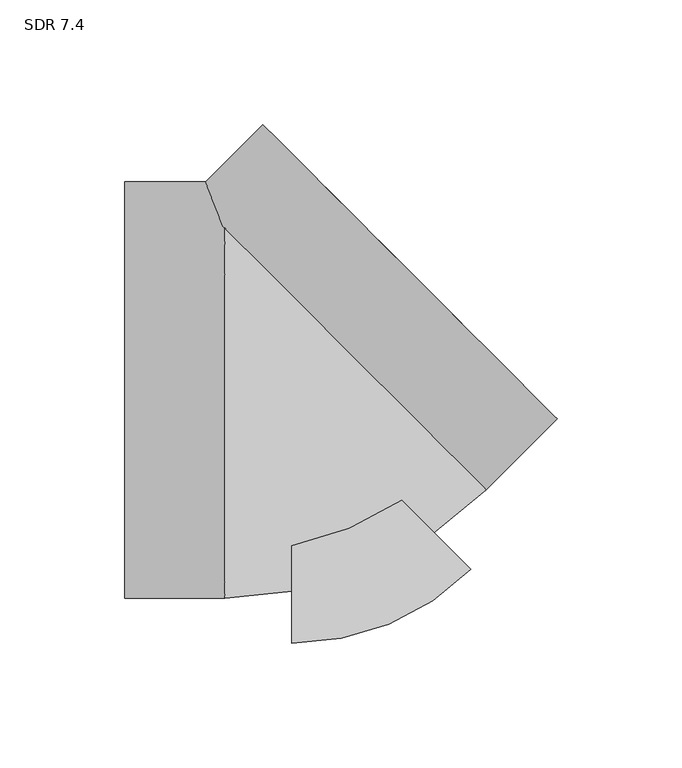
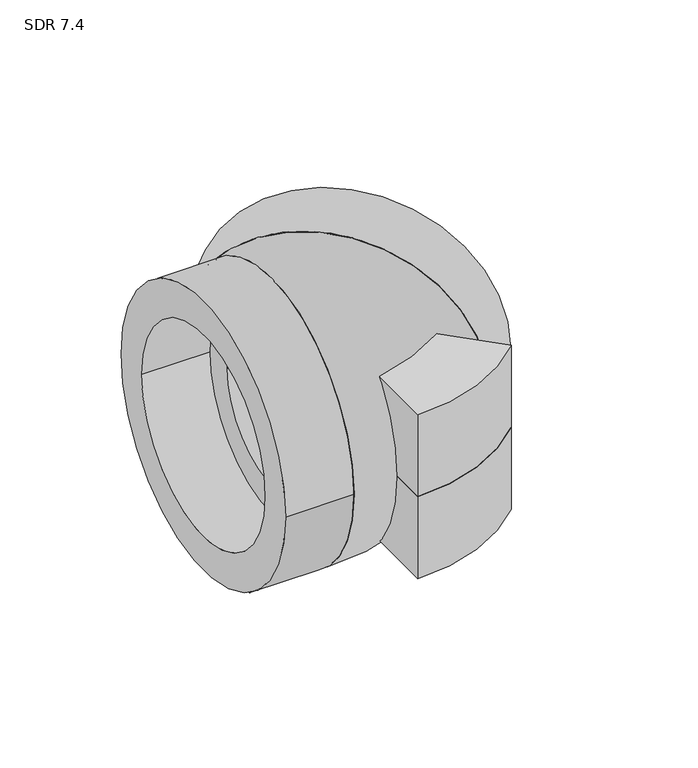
"""IFC4 building model written with IfcOpenShell, lengths in millimetres: pipe fitting geometry, Aquatherm - Elbow Socket : SDR 7.4."""

from ifc_helpers import new_model, si_unit, point, frame, origin, origin_with_axes, origin_2d, place, context, project, spatial, polyline, circle_curve, ellipse_curve, trimmed, segment, composite_curve, outline, extrude, source, transform, mapped, element, save
from ifc_brep_helpers import plane_surface, revolved_surface, advanced_brep


def sdr_7_4_ff885c7c(model_context):
    return source(origin(), model_context, "Body", "SolidModel", [
        extrude(outline(composite_curve([segment(polyline([(0.0, -101.6), (0.0, 0.0), (71.842049, -71.842049)]), True, "CONTINUOUS"), segment(trimmed(circle_curve(origin_2d(), 101.6), [point((71.842049, -71.842049))], [point((0.0, -101.6))], False, "CARTESIAN"), True, "CONTINUOUS")], self_intersect=False)), frame((0.0, 0.0, -50.8), z_axis=(0.0, 0.0, 1.0), x_axis=(1.0, 0.0, 0.0)), (0.0, 0.0, 1.0), 50.8),
        extrude(outline(composite_curve([segment(trimmed(circle_curve(origin_2d(), 101.6), [point((71.842049, -71.842049))], [point((0.0, -101.6))], False, "CARTESIAN"), True, "CONTINUOUS"), segment(polyline([(0.0, -101.6), (0.0, 0.0), (71.842049, -71.842049)]), True, "CONTINUOUS")], self_intersect=False)), origin_with_axes(), (0.0, 0.0, 1.0), 50.8),
        extrude(outline(composite_curve([segment(trimmed(circle_curve(origin_2d(), 83.439), [point((0.0, 83.439))], [point((0.0, -83.439))], False, "CARTESIAN"), True, "CONTINUOUS"), segment(trimmed(circle_curve(origin_2d(), 83.439), [point((0.0, -83.439))], [point((0.0, 83.439))], False, "CARTESIAN"), True, "CONTINUOUS")], self_intersect=False), holes=[composite_curve([segment(trimmed(circle_curve(origin_2d(), 62.484), [point((0.0, 62.484))], [point((0.0, -62.484))], True, "CARTESIAN"), True, "CONTINUOUS"), segment(trimmed(circle_curve(origin_2d(), 62.484), [point((0.0, -62.484))], [point((0.0, 62.484))], True, "CARTESIAN"), True, "CONTINUOUS")], self_intersect=False)]), frame((19.038143, 19.038143, 0.0), z_axis=(0.7071067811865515, 0.7071067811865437, 0.0), x_axis=(0.0, 0.0, 1.0)), (0.0, 0.0, 1.0), 40.132),
        advanced_brep(
        [(-26.924, 65.000286, -52.3166278), (-26.924, 65.000286, 52.3166278), (-26.924, -45.1273333, 0.0), (-26.924, 45.1273333, 0.0), (50.9479864, -12.8717004, 0.0), (-12.8717004, 50.9479864, 0.0)],
        [
            (0, 1, circle_curve(frame((-26.924, 0.0, 0.0), z_axis=(-1.0, 0.0, 0.0), x_axis=(0.0, 1.0, 0.0)), 83.439)),
            (1, 0),
            (2, 3, circle_curve(frame((-26.924, 0.0, 0.0), z_axis=(1.0, 0.0, 0.0), x_axis=(0.0, 1.0, 0.0)), 45.1273333)),
            (3, 2, circle_curve(frame((-26.924, 0.0, 0.0), z_axis=(1.0, 0.0, 0.0), x_axis=(0.0, 1.0, 0.0)), 45.1273333)),
            (1, 0, circle_curve(frame((19.038143, 19.038143, 0.0), z_axis=(0.7071067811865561, 0.7071067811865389, 0.0), x_axis=(-0.7071067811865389, 0.7071067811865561, 0.0)), 83.439)),
            (4, 5, circle_curve(frame((19.038143, 19.038143, 0.0), z_axis=(-0.7071067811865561, -0.7071067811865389, 0.0), x_axis=(-0.7071067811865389, 0.7071067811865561, 0.0)), 45.1273333)),
            (5, 4, circle_curve(frame((19.038143, 19.038143, 0.0), z_axis=(-0.7071067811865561, -0.7071067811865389, 0.0), x_axis=(-0.7071067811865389, 0.7071067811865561, 0.0)), 45.1273333)),
            (5, 3, circle_curve(frame((-26.924, 65.000286, 0.0), z_axis=(0.0, 0.0, -1.0), x_axis=(0.0, -1.0, 0.0)), 19.8729526)),
            (2, 4, circle_curve(frame((-26.924, 65.000286, 0.0), z_axis=(0.0, 0.0, 1.0), x_axis=(0.0, -1.0, 0.0)), 110.1276193)),
        ],
        [
            plane_surface(frame((-26.924, 65.000286, 109.4666278), z_axis=(-1.0, 0.0, 0.0), x_axis=(0.0, -1.0, 0.0))),
            plane_surface(frame((-26.924, 65.000286, 109.4666278), z_axis=(0.7071067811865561, 0.707106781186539, 0.0), x_axis=(0.707106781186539, -0.7071067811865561, 0.0))),
            revolved_surface(trimmed(ellipse_curve(frame((-26.924, 0.0, 0.0), z_axis=(1.0, 0.0, 0.0), x_axis=(0.0, 1.0, 0.0)), 83.439, 83.439), [point((-26.924, 65.000286, 52.3166278))], [point((-26.924, 65.000286, -52.3166278))], True, "CARTESIAN"), (-26.924, 65.000286, 109.4666278), (0.0, 0.0, -1.0)),
            revolved_surface(trimmed(ellipse_curve(frame((-26.924, 0.0, 0.0), z_axis=(-1.0, 0.0, 0.0), x_axis=(0.0, 1.0, 0.0)), 45.1273333, 45.1273333), [point((-26.924, 45.1273333, 0.0))], [point((-26.924, -45.1273333, 0.0))], True, "CARTESIAN"), (-26.924, 65.000286, 109.4666278), (0.0, 0.0, -1.0)),
            revolved_surface(trimmed(ellipse_curve(frame((-26.924, 0.0, 0.0), z_axis=(-1.0, 0.0, 0.0), x_axis=(0.0, 1.0, 0.0)), 45.1273333, 45.1273333), [point((-26.924, -45.1273333, 0.0))], [point((-26.924, 45.1273333, 0.0))], True, "CARTESIAN"), (-26.924, 65.000286, 109.4666278), (0.0, 0.0, -1.0)),
        ],
        [
            (0, [[1, 2], [3, 4]]),
            (1, [[5, -2], [6, 7]]),
            (2, [[-1, -5]]),
            (3, [[8, -3, 9, -7]]),
            (4, [[-9, -4, -8, -6]]),
        ],
    ),
        extrude(outline(composite_curve([segment(trimmed(circle_curve(origin_2d(), 83.439), [point((83.439, 0.0))], [point((-83.439, 0.0))], False, "CARTESIAN"), True, "CONTINUOUS"), segment(trimmed(circle_curve(origin_2d(), 83.439), [point((-83.439, 0.0))], [point((83.439, 0.0))], False, "CARTESIAN"), True, "CONTINUOUS")], self_intersect=False), holes=[composite_curve([segment(trimmed(circle_curve(origin_2d(), 62.484), [point((62.484, 0.0))], [point((-62.484, 0.0))], True, "CARTESIAN"), True, "CONTINUOUS"), segment(trimmed(circle_curve(origin_2d(), 62.484), [point((-62.484, 0.0))], [point((62.484, 0.0))], True, "CARTESIAN"), True, "CONTINUOUS")], self_intersect=False)]), frame((-67.056, 0.0, 0.0), z_axis=(1.0, 0.0, 0.0), x_axis=(0.0, 1.0, 0.0)), (0.0, 0.0, 1.0), 40.132),
    ])


if __name__ == "__main__":
    model = new_model("IFC4")
    model_context = context("Model", 3, world=origin())
    ifc_project = project(units=[si_unit("LENGTHUNIT", "METRE", prefix="MILLI")], contexts=[model_context])
    site = spatial("IfcSite", under=ifc_project)
    building = spatial("IfcBuilding", under=site)
    placement = place(None, origin())
    sdr_7_4_shape = sdr_7_4_ff885c7c(model_context)
    element("IfcPipeFitting", 1, ObjectType="Aquatherm - Elbow Socket : SDR 7.4", at=placement, inside=building, context=model_context, shape_type="MappedRepresentation", body=[
        mapped(sdr_7_4_shape, transform((0.0, 0.0, 0.0), x_axis=(1.0, 0.0, 0.0), y_axis=(0.0, 1.0, 0.0), z_axis=(0.0, 0.0, 1.0))),
    ])
    save(model, "model.ifc")
